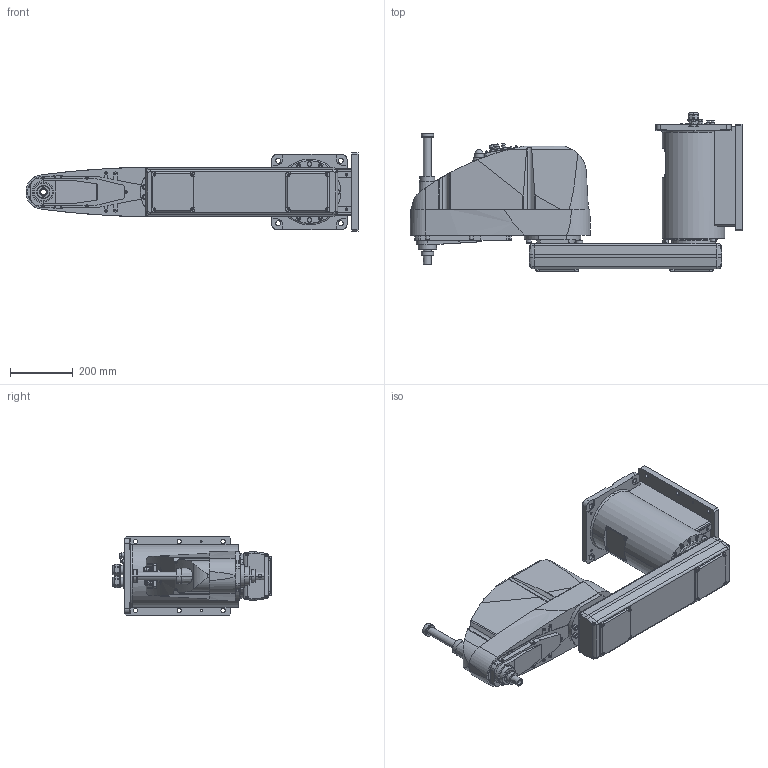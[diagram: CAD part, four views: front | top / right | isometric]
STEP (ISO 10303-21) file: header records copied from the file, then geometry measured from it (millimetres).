
FILE_DESCRIPTION( ( '' ), '1' );
FILE_NAME( '//expscmdclustefs.cadenas.external/client_exchange/iodir/jobs/output/wkb51510224_no0/STEP/G10_851SW_2_14b.stp', '2012-11-22T14:48:20', ( '' ), ( '' ), ' ', ' ', ' ' );
FILE_SCHEMA( ( 'automotive_design' ) );
Length unit declared in the file: millimetre
Products named in the file (4): 1; 2; 3; 4
Bounding box: 1060.5 x 506.5 x 250 mm (x, y, z)
Volume: 42126086.4 mm3; surface area: 1474238.6 mm2
Topology: 4 solids, 4 shells, 1841 faces, 4459 edges, 2897 vertices
Faces by surface type: plane 1006, cylinder 621, cone 190, torus 23, sphere 1
Entity records: 106521 total; most frequent: CARTESIAN_POINT 10584, DIRECTION 9552, STYLED_ITEM 9189, PRESENTATION_STYLE_ASSIGNMENT 9189, COLOUR_RGB 9189, ORIENTED_EDGE 8894, EDGE_CURVE 4447, CURVE_STYLE 4447
